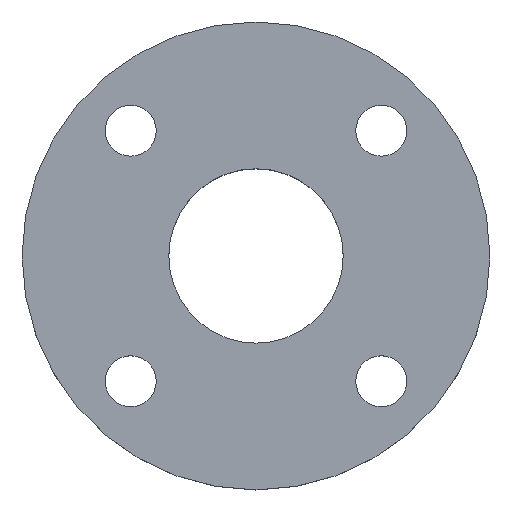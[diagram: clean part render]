
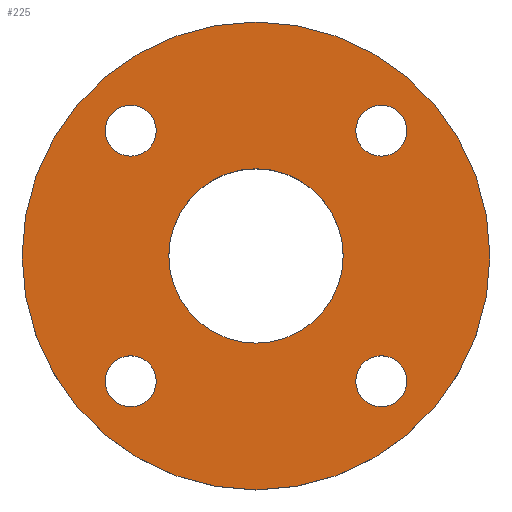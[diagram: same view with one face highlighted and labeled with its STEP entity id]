
A CAD part, top view. The second image highlights one B-rep face of the part: STEP entity #225.
In plain terms, the highlighted planar face has unit normal (0, 0, 1).
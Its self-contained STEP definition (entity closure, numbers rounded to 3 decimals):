
#3 = CIRCLE ( 'NONE', #337, 9. ) ;
#11 = ORIENTED_EDGE ( 'NONE', *, *, #514, .T. ) ;
#12 = ORIENTED_EDGE ( 'NONE', *, *, #27, .T. ) ;
#19 = AXIS2_PLACEMENT_3D ( 'NONE', #205, #206, #207 ) ;
#22 = CIRCLE ( 'NONE', #314, 30.75 ) ;
#25 = CARTESIAN_POINT ( 'NONE',  ( 0., 0., 0. ) ) ;
#27 = EDGE_CURVE ( 'NONE', #300, #410, #345, .T. ) ;
#29 = CARTESIAN_POINT ( 'NONE',  ( -30.75, 0., 0. ) ) ;
#60 = DIRECTION ( 'NONE',  ( 1., 0., 0. ) ) ;
#63 = DIRECTION ( 'NONE',  ( 0., 0., 1. ) ) ;
#72 = DIRECTION ( 'NONE',  ( 0., 0., 1. ) ) ;
#79 = CIRCLE ( 'NONE', #88, 9. ) ;
#88 = AXIS2_PLACEMENT_3D ( 'NONE', #633, #634, #637 ) ;
#90 = DIRECTION ( 'NONE',  ( 1., 0., 0. ) ) ;
#96 = AXIS2_PLACEMENT_3D ( 'NONE', #202, #203, #204 ) ;
#97 = AXIS2_PLACEMENT_3D ( 'NONE', #198, #200, #201 ) ;
#98 = AXIS2_PLACEMENT_3D ( 'NONE', #570, #572, #573 ) ;
#100 = CIRCLE ( 'NONE', #98, 9. ) ;
#101 = CIRCLE ( 'NONE', #97, 9. ) ;
#110 = CIRCLE ( 'NONE', #115, 82.5 ) ;
#115 = AXIS2_PLACEMENT_3D ( 'NONE', #616, #617, #618 ) ;
#130 = CARTESIAN_POINT ( 'NONE',  ( 44.194, 44.194, 0. ) ) ;
#131 = DIRECTION ( 'NONE',  ( 0., 0., -1. ) ) ;
#132 = DIRECTION ( 'NONE',  ( -1., 0., 0. ) ) ;
#146 = EDGE_CURVE ( 'NONE', #438, #415, #100, .T. ) ;
#149 = CARTESIAN_POINT ( 'NONE',  ( -35.194, -44.194, 0. ) ) ;
#150 = CARTESIAN_POINT ( 'NONE',  ( 53.194, 44.194, 0. ) ) ;
#151 = AXIS2_PLACEMENT_3D ( 'NONE', #130, #131, #132 ) ;
#154 = CARTESIAN_POINT ( 'NONE',  ( 53.194, -44.194, 0. ) ) ;
#158 = CARTESIAN_POINT ( 'NONE',  ( 35.194, 44.194, 0. ) ) ;
#160 = CARTESIAN_POINT ( 'NONE',  ( -53.194, 44.194, 0. ) ) ;
#167 = CARTESIAN_POINT ( 'NONE',  ( 30.75, 0., 0. ) ) ;
#168 = CARTESIAN_POINT ( 'NONE',  ( -82.5, 0., 0. ) ) ;
#169 = CIRCLE ( 'NONE', #280, 30.75 ) ;
#170 = CARTESIAN_POINT ( 'NONE',  ( -35.194, 44.194, 0. ) ) ;
#177 = CARTESIAN_POINT ( 'NONE',  ( 44.194, 44.194, 0. ) ) ;
#178 = DIRECTION ( 'NONE',  ( 0., 0., -1. ) ) ;
#180 = DIRECTION ( 'NONE',  ( -1., 0., 0. ) ) ;
#198 = CARTESIAN_POINT ( 'NONE',  ( -44.194, -44.194, 0. ) ) ;
#200 = DIRECTION ( 'NONE',  ( 0., 0., -1. ) ) ;
#201 = DIRECTION ( 'NONE',  ( -1., 0., 0. ) ) ;
#202 = CARTESIAN_POINT ( 'NONE',  ( 44.194, -44.194, 0. ) ) ;
#203 = DIRECTION ( 'NONE',  ( 0., 0., -1. ) ) ;
#204 = DIRECTION ( 'NONE',  ( -1., 0., 0. ) ) ;
#205 = CARTESIAN_POINT ( 'NONE',  ( -44.194, -44.194, 0. ) ) ;
#206 = DIRECTION ( 'NONE',  ( 0., 0., -1. ) ) ;
#207 = DIRECTION ( 'NONE',  ( -1., 0., 0. ) ) ;
#223 = CARTESIAN_POINT ( 'NONE',  ( 0., 0., 0. ) ) ;
#224 = DIRECTION ( 'NONE',  ( 0., 0., 1. ) ) ;
#225 = ADVANCED_FACE ( 'NONE', ( #593, #594, #595, #596, #597, #600 ), #602, .T. ) ;
#227 = DIRECTION ( 'NONE',  ( 1., 0., 0. ) ) ;
#238 = CIRCLE ( 'NONE', #96, 9. ) ;
#239 = CARTESIAN_POINT ( 'NONE',  ( 0., 0., 0. ) ) ;
#240 = AXIS2_PLACEMENT_3D ( 'NONE', #495, #496, #498 ) ;
#251 = EDGE_CURVE ( 'NONE', #296, #436, #110, .T. ) ;
#264 = EDGE_CURVE ( 'NONE', #415, #438, #79, .T. ) ;
#276 = AXIS2_PLACEMENT_3D ( 'NONE', #603, #604, #605 ) ;
#280 = AXIS2_PLACEMENT_3D ( 'NONE', #25, #72, #90 ) ;
#295 = CIRCLE ( 'NONE', #316, 82.5 ) ;
#296 = VERTEX_POINT ( 'NONE', #639 ) ;
#300 = VERTEX_POINT ( 'NONE', #640 ) ;
#301 = VERTEX_POINT ( 'NONE', #642 ) ;
#303 = VERTEX_POINT ( 'NONE', #29 ) ;
#314 = AXIS2_PLACEMENT_3D ( 'NONE', #223, #224, #227 ) ;
#316 = AXIS2_PLACEMENT_3D ( 'NONE', #239, #63, #60 ) ;
#320 = EDGE_CURVE ( 'NONE', #431, #303, #169, .T. ) ;
#324 = CIRCLE ( 'NONE', #19, 9. ) ;
#329 = ORIENTED_EDGE ( 'NONE', *, *, #504, .T. ) ;
#330 = EDGE_CURVE ( 'NONE', #408, #414, #340, .T. ) ;
#331 = ORIENTED_EDGE ( 'NONE', *, *, #556, .T. ) ;
#332 = ORIENTED_EDGE ( 'NONE', *, *, #146, .T. ) ;
#333 = ORIENTED_EDGE ( 'NONE', *, *, #264, .T. ) ;
#337 = AXIS2_PLACEMENT_3D ( 'NONE', #177, #178, #180 ) ;
#340 = CIRCLE ( 'NONE', #151, 9. ) ;
#341 = ORIENTED_EDGE ( 'NONE', *, *, #330, .T. ) ;
#344 = ORIENTED_EDGE ( 'NONE', *, *, #452, .T. ) ;
#345 = CIRCLE ( 'NONE', #240, 9. ) ;
#347 = ORIENTED_EDGE ( 'NONE', *, *, #320, .F. ) ;
#350 = ORIENTED_EDGE ( 'NONE', *, *, #586, .F. ) ;
#351 = ORIENTED_EDGE ( 'NONE', *, *, #251, .T. ) ;
#352 = ORIENTED_EDGE ( 'NONE', *, *, #638, .T. ) ;
#407 = VERTEX_POINT ( 'NONE', #149 ) ;
#408 = VERTEX_POINT ( 'NONE', #150 ) ;
#410 = VERTEX_POINT ( 'NONE', #154 ) ;
#414 = VERTEX_POINT ( 'NONE', #158 ) ;
#415 = VERTEX_POINT ( 'NONE', #160 ) ;
#422 = EDGE_LOOP ( 'NONE', ( #341, #344 ) ) ;
#426 = EDGE_LOOP ( 'NONE', ( #11, #12 ) ) ;
#431 = VERTEX_POINT ( 'NONE', #167 ) ;
#433 = EDGE_LOOP ( 'NONE', ( #332, #333 ) ) ;
#435 = EDGE_LOOP ( 'NONE', ( #347, #350 ) ) ;
#436 = VERTEX_POINT ( 'NONE', #168 ) ;
#438 = VERTEX_POINT ( 'NONE', #170 ) ;
#449 = EDGE_LOOP ( 'NONE', ( #351, #352 ) ) ;
#452 = EDGE_CURVE ( 'NONE', #414, #408, #3, .T. ) ;
#453 = EDGE_LOOP ( 'NONE', ( #329, #331 ) ) ;
#495 = CARTESIAN_POINT ( 'NONE',  ( 44.194, -44.194, 0. ) ) ;
#496 = DIRECTION ( 'NONE',  ( 0., 0., -1. ) ) ;
#498 = DIRECTION ( 'NONE',  ( -1., 0., 0. ) ) ;
#504 = EDGE_CURVE ( 'NONE', #407, #301, #101, .T. ) ;
#514 = EDGE_CURVE ( 'NONE', #410, #300, #238, .T. ) ;
#556 = EDGE_CURVE ( 'NONE', #301, #407, #324, .T. ) ;
#570 = CARTESIAN_POINT ( 'NONE',  ( -44.194, 44.194, 0. ) ) ;
#572 = DIRECTION ( 'NONE',  ( 0., 0., -1. ) ) ;
#573 = DIRECTION ( 'NONE',  ( -1., 0., 0. ) ) ;
#586 = EDGE_CURVE ( 'NONE', #303, #431, #22, .T. ) ;
#593 = FACE_BOUND ( 'NONE', #426, .T. ) ;
#594 = FACE_BOUND ( 'NONE', #453, .T. ) ;
#595 = FACE_BOUND ( 'NONE', #433, .T. ) ;
#596 = FACE_BOUND ( 'NONE', #422, .T. ) ;
#597 = FACE_BOUND ( 'NONE', #435, .T. ) ;
#600 = FACE_OUTER_BOUND ( 'NONE', #449, .T. ) ;
#602 = PLANE ( 'NONE',  #276 ) ;
#603 = CARTESIAN_POINT ( 'NONE',  ( 0., 0., 0. ) ) ;
#604 = DIRECTION ( 'NONE',  ( 0., 0., 1. ) ) ;
#605 = DIRECTION ( 'NONE',  ( 1., 0., 0. ) ) ;
#616 = CARTESIAN_POINT ( 'NONE',  ( 0., 0., 0. ) ) ;
#617 = DIRECTION ( 'NONE',  ( 0., 0., 1. ) ) ;
#618 = DIRECTION ( 'NONE',  ( 1., 0., 0. ) ) ;
#633 = CARTESIAN_POINT ( 'NONE',  ( -44.194, 44.194, 0. ) ) ;
#634 = DIRECTION ( 'NONE',  ( 0., 0., -1. ) ) ;
#637 = DIRECTION ( 'NONE',  ( -1., 0., 0. ) ) ;
#638 = EDGE_CURVE ( 'NONE', #436, #296, #295, .T. ) ;
#639 = CARTESIAN_POINT ( 'NONE',  ( 82.5, 0., 0. ) ) ;
#640 = CARTESIAN_POINT ( 'NONE',  ( 35.194, -44.194, 0. ) ) ;
#642 = CARTESIAN_POINT ( 'NONE',  ( -53.194, -44.194, 0. ) ) ;
